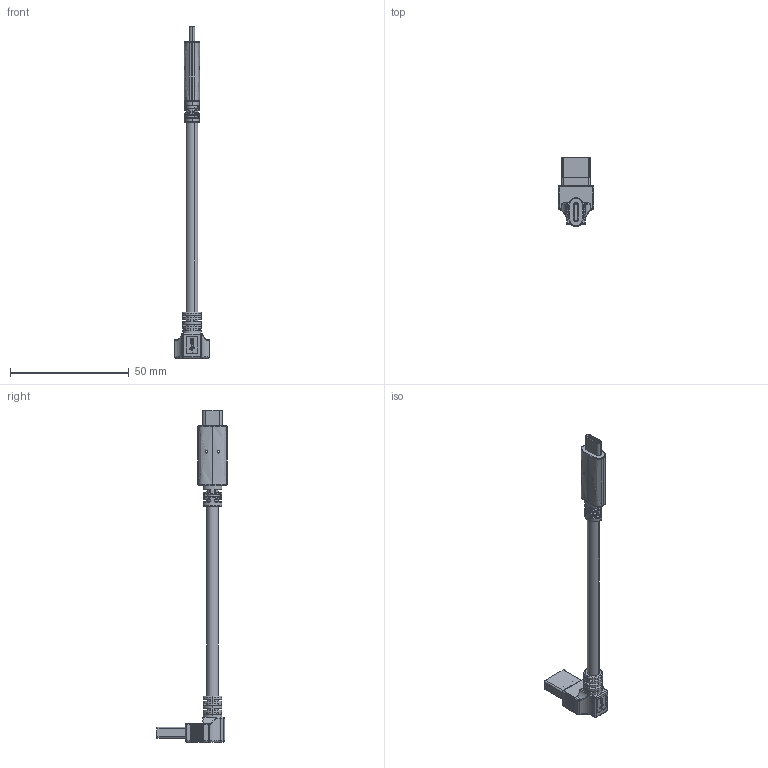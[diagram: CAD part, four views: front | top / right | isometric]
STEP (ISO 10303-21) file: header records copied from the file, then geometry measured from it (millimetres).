
FILE_DESCRIPTION (( 'STEP AP203' ), '1' );
FILE_NAME ('RR-AUCS-XXGRC_202302.STEP', '2023-02-17T05:28:29', ( '' ), ( '' ), 'SwSTEP 2.0', 'SolidWorks 2019', '' );
FILE_SCHEMA (( 'CONFIG_CONTROL_DESIGN' ));
Length unit declared in the file: millimetre
Products named in the file (1): RR-AUCS-XXGRC_202302
Bounding box: 15 x 29.52 x 139.95 mm (x, y, z)
Volume: 6239.9 mm3; surface area: 4641.5 mm2
Topology: 1 solids, 1 shells, 419 faces, 1096 edges, 688 vertices
Faces by surface type: cylinder 164, plane 153, bspline 63, torus 19, sphere 16, cone 4
Entity records: 17344 total; most frequent: CARTESIAN_POINT 7780, ORIENTED_EDGE 2172, DIRECTION 1738, EDGE_CURVE 1086, VERTEX_POINT 688, AXIS2_PLACEMENT_3D 634, LINE 470, VECTOR 470
